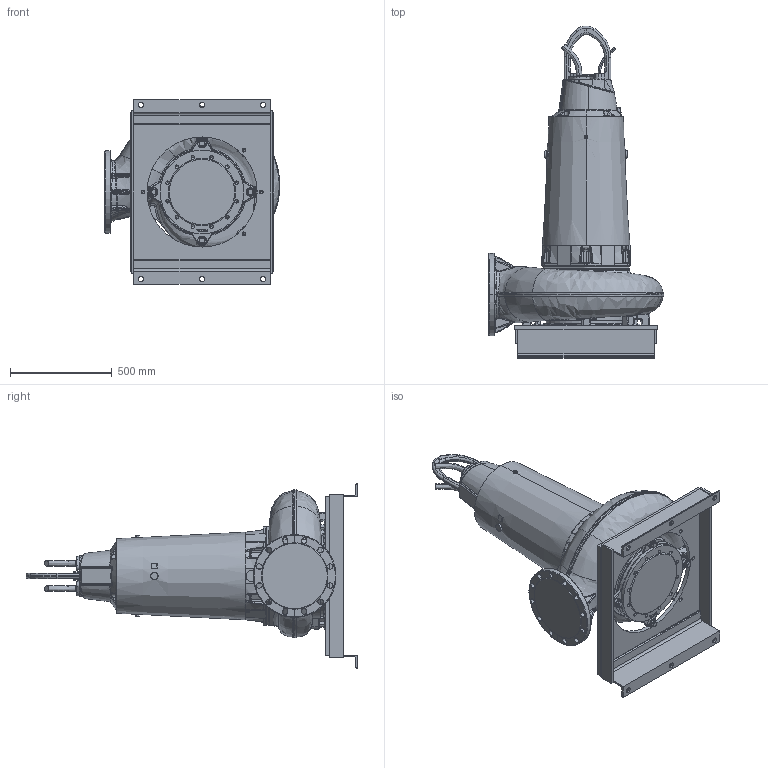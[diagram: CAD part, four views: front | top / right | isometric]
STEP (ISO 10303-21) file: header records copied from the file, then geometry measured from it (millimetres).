
FILE_DESCRIPTION (( 'STEP AP214' ), '1' );
FILE_NAME ('PE4_XFP255J-CB2_DRY_A_NG2.STEP', '2017-01-18T08:33:20', ( '' ), ( '' ), 'SwSTEP 2.0', 'SolidWorks 2017', '' );
FILE_SCHEMA (( 'AUTOMOTIVE_DESIGN' ));
Length unit declared in the file: millimetre
Products named in the file (1): PE4_XFP255J-CB2_DRY_A_NG2
Bounding box: 860.93 x 1627.4 x 905 mm (x, y, z)
Volume: 221318281.5 mm3; surface area: 4520792.3 mm2
Topology: 3 solids, 16 shells, 2540 faces, 6418 edges, 3881 vertices
Faces by surface type: bspline 750, plane 679, cylinder 603, cone 312, torus 159, sphere 37
Entity records: 173493 total; most frequent: CARTESIAN_POINT 91132, ORIENTED_EDGE 12656, DIRECTION 9606, EDGE_CURVE 6328, VERTEX_POINT 3881, AXIS2_PLACEMENT_3D 3808, EDGE_LOOP 2703, UNCERTAINTY_MEASURE_WITH_UNIT 2545
